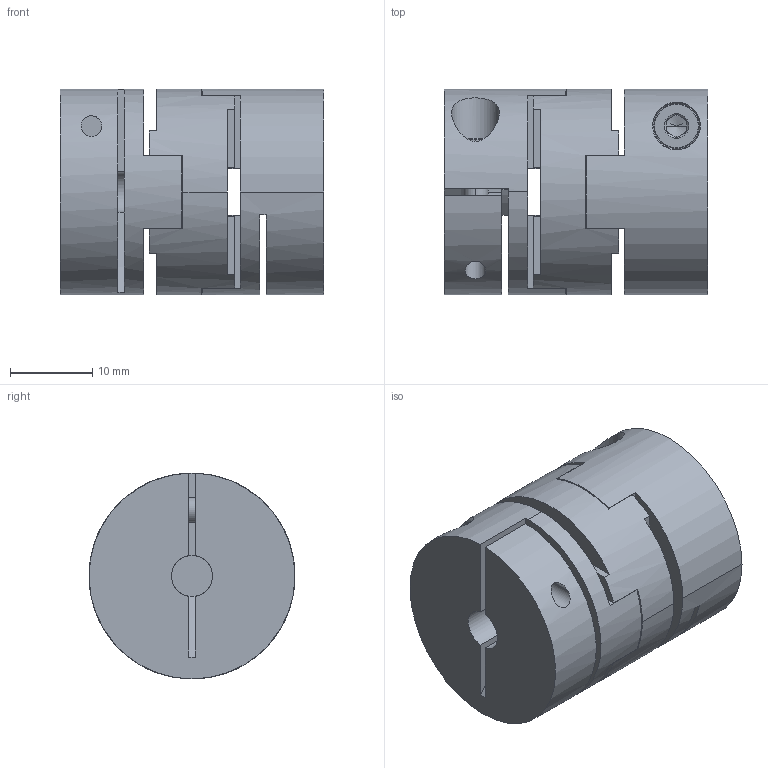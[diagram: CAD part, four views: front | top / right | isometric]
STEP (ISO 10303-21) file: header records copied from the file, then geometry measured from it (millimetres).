
FILE_DESCRIPTION (( 'STEP AP203' ), '1' );
FILE_NAME ('KBO2-25.STEP', '2024-01-10T12:05:53', ( '' ), ( '' ), 'SwSTEP 2.0', 'SolidWorks 2022', '' );
FILE_SCHEMA (( 'CONFIG_CONTROL_DESIGN' ));
Length unit declared in the file: millimetre
Products named in the file (4): ISO 4762 - M3 x 10; KBO2-25; ONK 25_011.00001057.100; OZS 25_011.00000737.500
Assembly tree (5 placements, depth 2):
  KBO2-25
    OZS 25_011.00000737.500
    ONK 25_011.00001057.100  x2
    ISO 4762 - M3 x 10  x2
Bounding box: 32 x 25 x 25 mm (x, y, z)
Volume: 12584.9 mm3; surface area: 8445.8 mm2
Topology: 5 solids, 5 shells, 163 faces, 421 edges, 268 vertices
Faces by surface type: plane 94, cylinder 45, torus 12, cone 12
Entity records: 3677 total; most frequent: CARTESIAN_POINT 668, DIRECTION 571, ORIENTED_EDGE 522, EDGE_CURVE 261, AXIS2_PLACEMENT_3D 216, VERTEX_POINT 169, VECTOR 139, LINE 139
